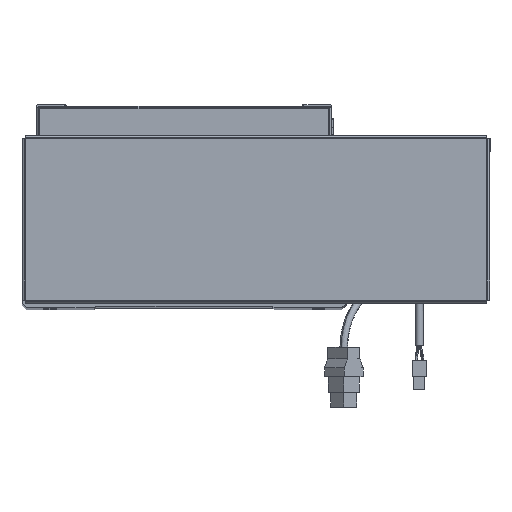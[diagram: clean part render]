
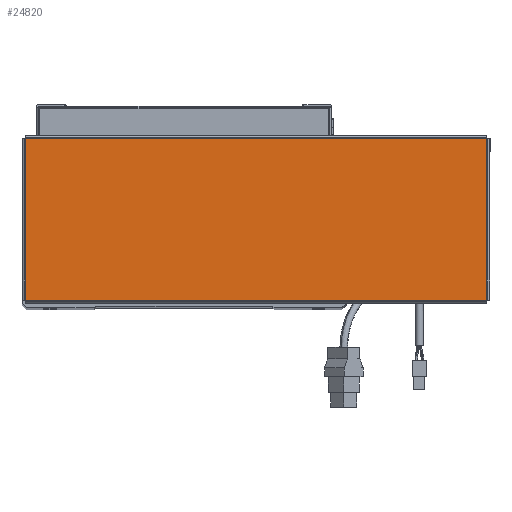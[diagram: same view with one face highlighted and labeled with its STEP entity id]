
A CAD part, top view. The second image highlights one B-rep face of the part: STEP entity #24820.
In plain terms, the highlighted planar face has unit normal (0, 0, 1).
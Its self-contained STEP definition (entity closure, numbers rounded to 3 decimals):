
#503 = VECTOR ( 'NONE', #29896, 1000. ) ;
#2800 = VERTEX_POINT ( 'NONE', #5349 ) ;
#3628 = ORIENTED_EDGE ( 'NONE', *, *, #42264, .T. ) ;
#3653 = VECTOR ( 'NONE', #36070, 1000. ) ;
#4805 = VERTEX_POINT ( 'NONE', #47235 ) ;
#5349 = CARTESIAN_POINT ( 'NONE',  ( -156.513, -54.763, 0. ) ) ;
#6700 = CARTESIAN_POINT ( 'NONE',  ( -156.513, 54.763, 0. ) ) ;
#6720 = CARTESIAN_POINT ( 'NONE',  ( 156.513, -54.793, 0. ) ) ;
#7151 = EDGE_CURVE ( 'NONE', #2800, #46285, #62484, .T. ) ;
#9624 = CARTESIAN_POINT ( 'NONE',  ( 156.513, -54.763, 0. ) ) ;
#10263 = LINE ( 'NONE', #6720, #43324 ) ;
#11937 = DIRECTION ( 'NONE',  ( 1., 0., 0. ) ) ;
#13511 = DIRECTION ( 'NONE',  ( 0., 1., 0. ) ) ;
#19342 = CARTESIAN_POINT ( 'NONE',  ( -156.543, -54.763, 0. ) ) ;
#20050 = EDGE_LOOP ( 'NONE', ( #27799, #52640, #52211, #3628 ) ) ;
#21591 = EDGE_CURVE ( 'NONE', #46285, #4805, #10263, .T. ) ;
#21614 = PLANE ( 'NONE',  #60648 ) ;
#24217 = EDGE_CURVE ( 'NONE', #4805, #25815, #41410, .T. ) ;
#24820 = ADVANCED_FACE ( 'NONE', ( #42531 ), #21614, .T. ) ;
#25712 = VECTOR ( 'NONE', #55340, 1000. ) ;
#25815 = VERTEX_POINT ( 'NONE', #6700 ) ;
#27799 = ORIENTED_EDGE ( 'NONE', *, *, #7151, .T. ) ;
#29896 = DIRECTION ( 'NONE',  ( 1., 0., 0. ) ) ;
#31768 = DIRECTION ( 'NONE',  ( 0., 0., 1. ) ) ;
#35164 = LINE ( 'NONE', #36499, #3653 ) ;
#36070 = DIRECTION ( 'NONE',  ( 0., -1., 0. ) ) ;
#36499 = CARTESIAN_POINT ( 'NONE',  ( -156.513, 54.793, 0. ) ) ;
#41410 = LINE ( 'NONE', #46121, #25712 ) ;
#42264 = EDGE_CURVE ( 'NONE', #25815, #2800, #35164, .T. ) ;
#42531 = FACE_OUTER_BOUND ( 'NONE', #20050, .T. ) ;
#43324 = VECTOR ( 'NONE', #13511, 1000. ) ;
#46121 = CARTESIAN_POINT ( 'NONE',  ( 156.543, 54.763, 0. ) ) ;
#46285 = VERTEX_POINT ( 'NONE', #9624 ) ;
#47110 = CARTESIAN_POINT ( 'NONE',  ( 0., 0., 0. ) ) ;
#47235 = CARTESIAN_POINT ( 'NONE',  ( 156.513, 54.763, 0. ) ) ;
#52211 = ORIENTED_EDGE ( 'NONE', *, *, #24217, .T. ) ;
#52640 = ORIENTED_EDGE ( 'NONE', *, *, #21591, .T. ) ;
#55340 = DIRECTION ( 'NONE',  ( -1., 0., 0. ) ) ;
#60648 = AXIS2_PLACEMENT_3D ( 'NONE', #47110, #31768, #11937 ) ;
#62484 = LINE ( 'NONE', #19342, #503 ) ;
